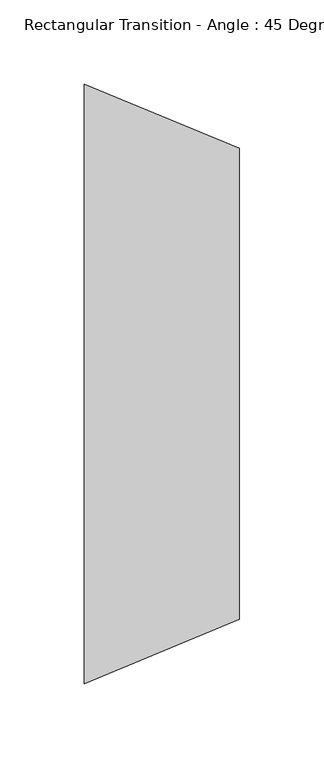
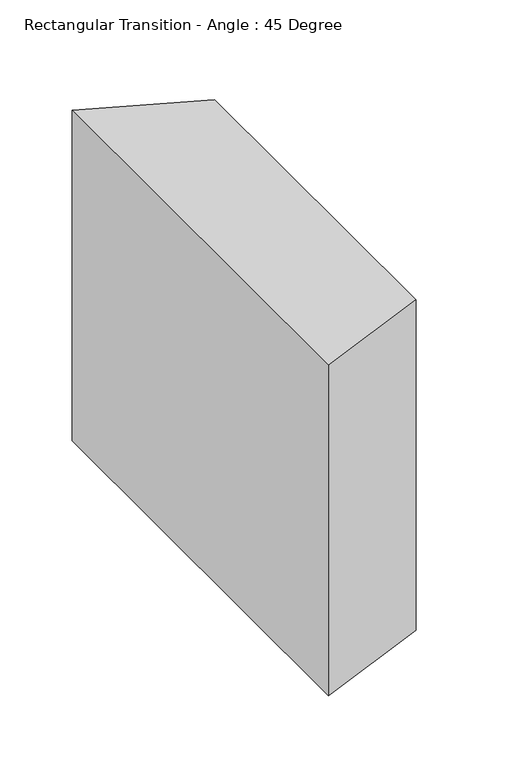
"""IFC4 building model written with IfcOpenShell, lengths in millimetres: duct fitting geometry, Rectangular Transition - Angle : 45 Degree."""

from ifc_helpers import new_model, si_unit, frame, origin, place, context, project, spatial, polyline, outline, extrude, source, transform, mapped, element, save


def rectangular_transition_angle_45_degree_159382a9(model_context):
    return source(origin(), model_context, "Body", "SweptSolid", [
        extrude(outline(polyline([(0.0, 177.8), (91.9815367, 139.7), (91.9815367, -139.7), (0.0, -177.8), (0.0, 177.8)])), frame((0.0, 0.0, -139.7), z_axis=(0.0, 0.0, 1.0), x_axis=(1.0, 0.0, 0.0)), (0.0, 0.0, 1.0), 279.4),
    ])


if __name__ == "__main__":
    model = new_model("IFC4")
    model_context = context("Model", 3, world=origin())
    ifc_project = project(units=[si_unit("LENGTHUNIT", "METRE", prefix="MILLI")], contexts=[model_context])
    site = spatial("IfcSite", under=ifc_project)
    building = spatial("IfcBuilding", under=site)
    placement = place(None, origin())
    rectangular_transition_angle_45_degree_shape = rectangular_transition_angle_45_degree_159382a9(model_context)
    element("IfcDuctFitting", 1, ObjectType="Rectangular Transition - Angle : 45 Degree", at=placement, inside=building, context=model_context, shape_type="MappedRepresentation", body=[
        mapped(rectangular_transition_angle_45_degree_shape, transform((0.0, 0.0, 0.0), x_axis=(1.0, 0.0, 0.0), y_axis=(0.0, 1.0, 0.0), z_axis=(0.0, 0.0, 1.0))),
    ])
    save(model, "model.ifc")
